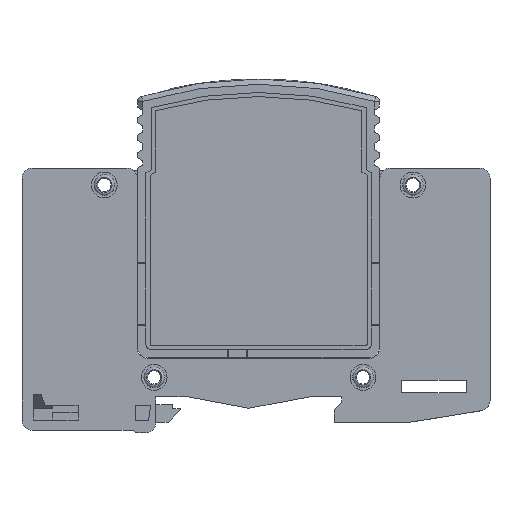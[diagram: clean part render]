
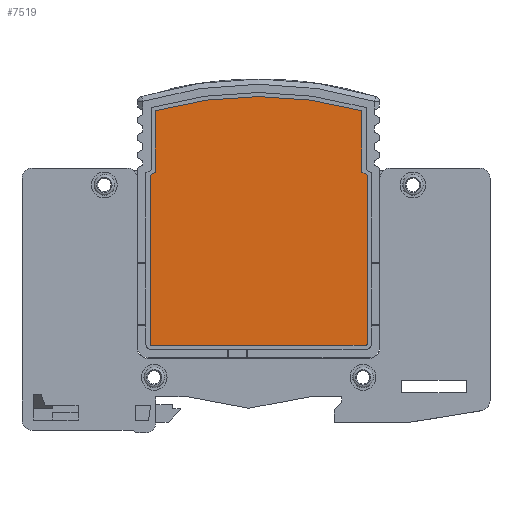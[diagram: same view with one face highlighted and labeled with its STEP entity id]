
A CAD part, front view. The second image highlights one B-rep face of the part: STEP entity #7519.
In plain terms, the highlighted planar face has unit normal (0, -1, 0).
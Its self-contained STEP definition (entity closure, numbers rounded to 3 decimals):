
#7519=ADVANCED_FACE('',(#25468),#25470,.F.);
#25468=FACE_BOUND('',#25469,.T.);
#25469=EDGE_LOOP('',(#40570,#40571,#40572,#40573,#40574,#40575,#40576,#40577,#40578,
#40579));
#25470=PLANE('',#25471);
#25471=AXIS2_PLACEMENT_3D('',#25472,#25473,#25474);
#25472=CARTESIAN_POINT('',(0.,0.,0.));
#25473=DIRECTION('',(0.,1.,0.));
#25474=DIRECTION('',(-1.,0.,0.));
#40570=ORIENTED_EDGE('',*,*,#52052,.T.);
#40571=ORIENTED_EDGE('',*,*,#52071,.T.);
#40572=ORIENTED_EDGE('',*,*,#52069,.T.);
#40573=ORIENTED_EDGE('',*,*,#52067,.T.);
#40574=ORIENTED_EDGE('',*,*,#52065,.T.);
#40575=ORIENTED_EDGE('',*,*,#52063,.T.);
#40576=ORIENTED_EDGE('',*,*,#52061,.T.);
#40577=ORIENTED_EDGE('',*,*,#52059,.T.);
#40578=ORIENTED_EDGE('',*,*,#52057,.T.);
#40579=ORIENTED_EDGE('',*,*,#52055,.T.);
#52052=EDGE_CURVE('',#61690,#61691,#61692,.T.);
#52055=EDGE_CURVE('',#61695,#61690,#61696,.F.);
#52057=EDGE_CURVE('',#61698,#61695,#61699,.T.);
#52059=EDGE_CURVE('',#61701,#61698,#61702,.T.);
#52061=EDGE_CURVE('',#61704,#61701,#61705,.T.);
#52063=EDGE_CURVE('',#61707,#61704,#61708,.F.);
#52065=EDGE_CURVE('',#61710,#61707,#61711,.T.);
#52067=EDGE_CURVE('',#61713,#61710,#61714,.T.);
#52069=EDGE_CURVE('',#61716,#61713,#61717,.T.);
#52071=EDGE_CURVE('',#61691,#61716,#61719,.F.);
#61690=VERTEX_POINT('',#93561);
#61691=VERTEX_POINT('',#93562);
#61692=LINE('',#93563,#93564);
#61695=VERTEX_POINT('',#93572);
#61696=CIRCLE('',#93573,0.2);
#61698=VERTEX_POINT('',#93580);
#61699=LINE('',#93581,#93582);
#61701=VERTEX_POINT('',#93587);
#61702=LINE('',#93588,#93589);
#61704=VERTEX_POINT('',#93594);
#61705=LINE('',#93595,#93596);
#61707=VERTEX_POINT('',#93601);
#61708=CIRCLE('',#93602,75.101);
#61710=VERTEX_POINT('',#93609);
#61711=LINE('',#93610,#93611);
#61713=VERTEX_POINT('',#93616);
#61714=LINE('',#93617,#93618);
#61716=VERTEX_POINT('',#93623);
#61717=LINE('',#93624,#93625);
#61719=CIRCLE('',#93630,0.2);
#93561=CARTESIAN_POINT('',(-20.4,0.,-9.));
#93562=CARTESIAN_POINT('',(21.4,0.,-9.));
#93563=CARTESIAN_POINT('',(-20.4,0.,-9.));
#93564=VECTOR('',#93565,1.);
#93565=DIRECTION('',(1.,0.,0.));
#93572=CARTESIAN_POINT('',(-20.6,0.,-8.8));
#93573=AXIS2_PLACEMENT_3D('',#93574,#93575,#93576);
#93574=CARTESIAN_POINT('',(-20.4,0.,-8.8));
#93575=DIRECTION('',(0.,1.,0.));
#93576=DIRECTION('',(0.,0.,-1.));
#93580=CARTESIAN_POINT('',(-20.6,0.,24.114));
#93581=CARTESIAN_POINT('',(-20.6,0.,24.114));
#93582=VECTOR('',#93583,1.);
#93583=DIRECTION('',(0.,0.,-1.));
#93587=CARTESIAN_POINT('',(-19.6,0.,24.692));
#93588=CARTESIAN_POINT('',(-19.6,0.,24.692));
#93589=VECTOR('',#93590,1.);
#93590=DIRECTION('',(-0.866,0.,-0.5));
#93594=CARTESIAN_POINT('',(-19.6,0.,36.66));
#93595=CARTESIAN_POINT('',(-19.6,0.,36.66));
#93596=VECTOR('',#93597,1.);
#93597=DIRECTION('',(0.,0.,-1.));
#93601=CARTESIAN_POINT('',(20.6,0.,36.66));
#93602=AXIS2_PLACEMENT_3D('',#93603,#93604,#93605);
#93603=CARTESIAN_POINT('',(0.5,0.,-35.701));
#93604=DIRECTION('',(0.,1.,0.));
#93605=DIRECTION('',(-0.268,0.,0.964));
#93609=CARTESIAN_POINT('',(20.6,0.,24.692));
#93610=CARTESIAN_POINT('',(20.6,0.,24.692));
#93611=VECTOR('',#93612,1.);
#93612=DIRECTION('',(0.,0.,1.));
#93616=CARTESIAN_POINT('',(21.6,0.,24.114));
#93617=CARTESIAN_POINT('',(21.6,0.,24.114));
#93618=VECTOR('',#93619,1.);
#93619=DIRECTION('',(-0.866,0.,0.5));
#93623=CARTESIAN_POINT('',(21.6,0.,-8.8));
#93624=CARTESIAN_POINT('',(21.6,0.,-8.8));
#93625=VECTOR('',#93626,1.);
#93626=DIRECTION('',(0.,0.,1.));
#93630=AXIS2_PLACEMENT_3D('',#93631,#93632,#93633);
#93631=CARTESIAN_POINT('',(21.4,0.,-8.8));
#93632=DIRECTION('',(-0.,1.,0.));
#93633=DIRECTION('',(1.,0.,0.));
